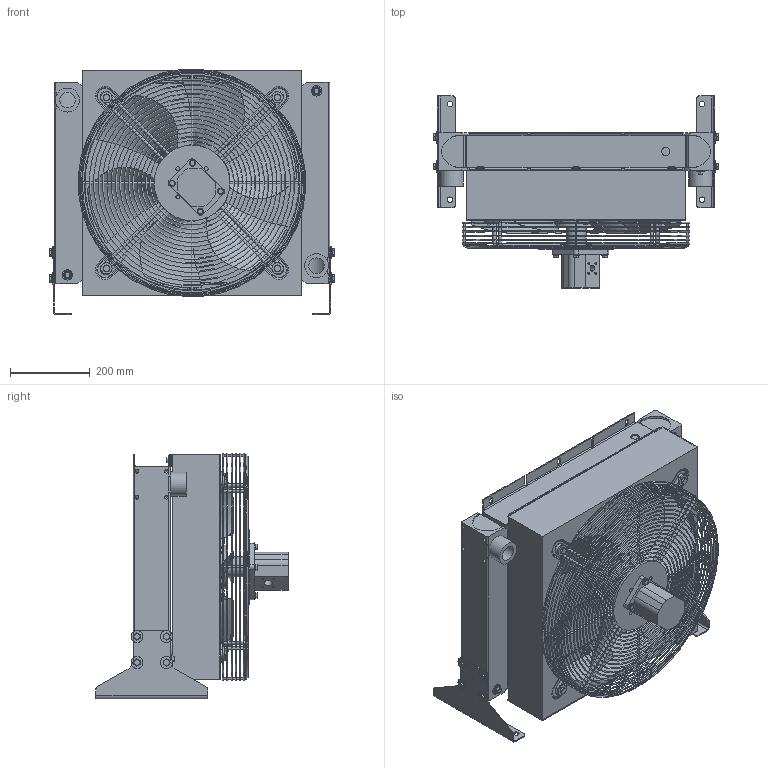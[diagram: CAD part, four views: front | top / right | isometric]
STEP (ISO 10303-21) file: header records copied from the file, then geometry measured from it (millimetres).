
FILE_DESCRIPTION( ( 'Unknown' ), '1' );
FILE_NAME( 'E:/du/intern/umbach/131105/H65_HR65.stp', 'Unknown', ( 'CAD-SV' ), ( 'AKG-TTI' ), 'PSStep 14.0', 'SOLID EDGE ST4', ' ' );
FILE_SCHEMA( ( 'AUTOMOTIVE_DESIGN { 1 0 10303 214 1 1 1 1 }' ) );
Length unit declared in the file: millimetre
Products named in the file (47): 10000047240_000; 10000019428_000-oa0; 10000019428_000-oa1; 10000047200_000-oa2; 10000030262_000; 10000010971_000-oa3; 10000016423_000-oa4; 10000016423_000-oa5; 10000016755_000; 10000000738_000; 10000030250_000; 10000030246_000; 10000000909_000; 10000047258_000; 10000000811_000; 10000000664_000; Assem1; 10000004706_000; 10000004817_000; 10000000620_000; 10000001107_000; 10000001112_000; 10000001226_000; 10000001235_000; 10000001275_000; 10000001299_000; 10000001346_000; 10000001357_000; 10000004549_000; 10000030193_000
Assembly tree (108 placements, depth 4):
  Assem1
    10000004706_000
    10000004817_000
    10000004817_000
    10000004817_000
    10000004817_000
    10000004817_000
    10000004817_000
    10000004817_000
    10000004817_000
    10000004817_000
    10000004817_000
    10000004817_000
    10000004817_000
    10000004817_000
    10000004817_000
    10000004817_000
    10000004817_000
    10000004817_000
    10000004817_000
    10000000620_000  x4
    10000001107_000  x8
    10000001112_000  x4
    10000001226_000  x6
    10000001235_000  x4
    10000001275_000  x10
    10000001299_000  x8
    10000001346_000  x8
    10000001357_000  x12
    10000004549_000
    10000030193_000  x2
    10000047258_000
      10000000811_000  x2
      10000000664_000  x2
      10000047240_000
        10000019428_000-oa0
        10000019428_000-oa1
        10000047200_000-oa2
      10000030262_000  x2
        10000010971_000-oa3
        10000016423_000-oa4
        10000016423_000-oa5
        10000016755_000
        10000000738_000
    10000030250_000
      10000030246_000
      10000000909_000  x4
Bounding box: 713.8 x 481.61 x 615.28 mm (x, y, z)
Volume: 32479083.4 mm3; surface area: 3515121.8 mm2
Topology: 109 solids, 109 shells, 1752 faces, 4586 edges, 2979 vertices
Faces by surface type: plane 838, cylinder 479, cone 264, torus 113, bspline 58
Full cylindrical faces by diameter (mm): 4.917 x8, 5 x8, 5.35 x4, 6.8 x10, 8 x34, 8.4 x20, 9 x4, 9.03 x36, 10 x20, 10.5 x12, 11.63 x10, 12 x1, 12.5 x14, 14 x6, 14.2 x2, 14.5 x4, 14.63 x12, 15 x1, 16 x8, 17 x1, 17.4 x1, 19 x2, 19.9 x2, 20 x1, 20.5 x2, 24 x12, 26 x2, 28 x4, 30 x8, 36 x1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
Entity records: 50072 total; most frequent: CARTESIAN_POINT 18694, ORIENTED_EDGE 4446, DIRECTION 4426, EDGE_CURVE 2223, AXIS2_PLACEMENT_3D 1743, VERTEX_POINT 1573, EDGE_LOOP 1444, FACE_OUTER_BOUND 1139
